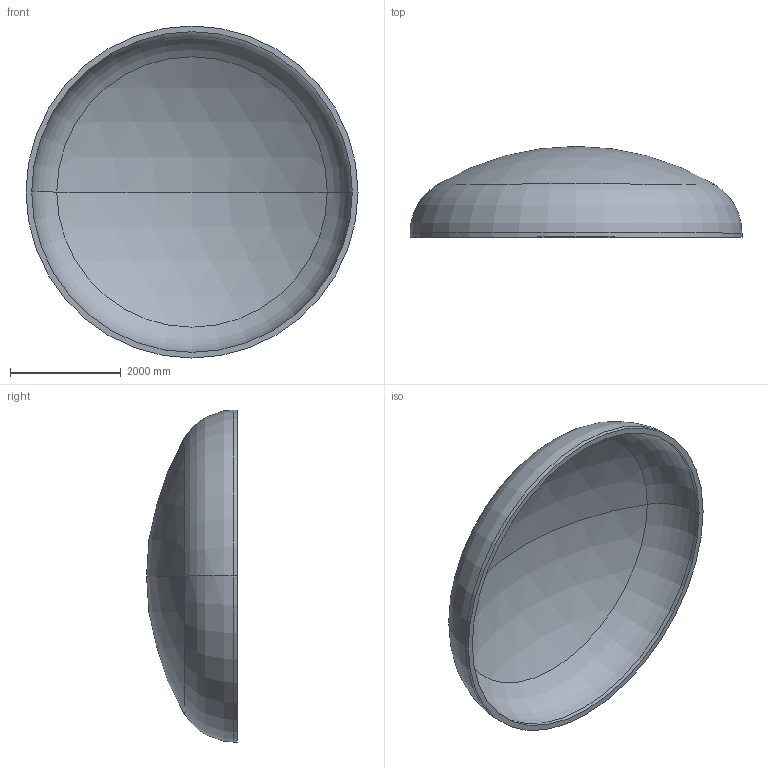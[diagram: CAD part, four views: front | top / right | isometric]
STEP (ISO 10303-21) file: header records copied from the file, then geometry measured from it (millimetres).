
FILE_DESCRIPTION (( 'STEP AP203' ), '1' );
FILE_NAME ('DIN 28013 Korbbogenform_-_Boden DIN 28013 - 6000 x 75 - I - s=102.step', '2016-07-04T10:38:51', ( '' ), ( '' ), 'SwSTEP 2.0', 'SolidWorks 2013', '' );
FILE_SCHEMA (( 'CONFIG_CONTROL_DESIGN' ));
Length unit declared in the file: millimetre
Products named in the file (1): DIN 28013 Korbbogenform_-_Boden DIN 28013 - 6000 x 75 - I - s=102
Bounding box: 6000 x 1641.9 x 6000 mm (x, y, z)
Volume: 4048283524.5 mm3; surface area: 81289838.2 mm2
Topology: 1 solids, 1 shells, 13 faces, 24 edges, 14 vertices
Faces by surface type: torus 4, cylinder 4, sphere 4, plane 1
Entity records: 407 total; most frequent: DIRECTION 72, CARTESIAN_POINT 52, ORIENTED_EDGE 48, AXIS2_PLACEMENT_3D 34, EDGE_CURVE 24, CIRCLE 20, EDGE_LOOP 14, VERTEX_POINT 14
